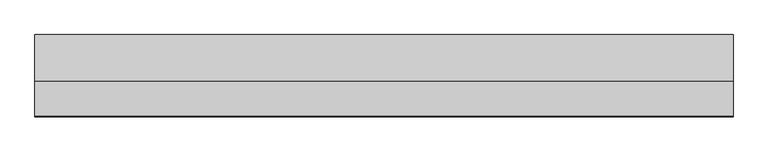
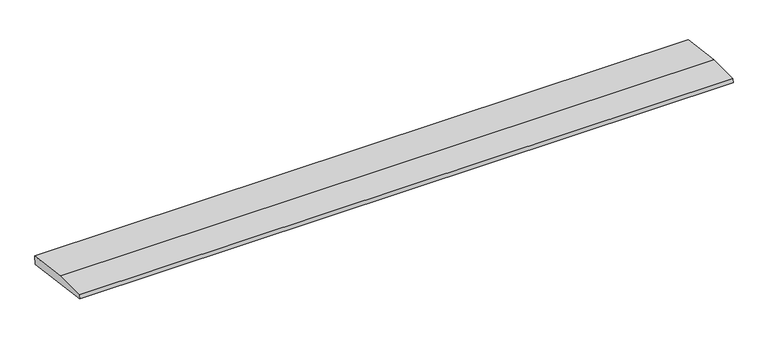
"""IFC4 building model written with IfcOpenShell, lengths in millimetres: beam geometry, weatherboad : weatherboad."""

from ifc_helpers import new_model, si_unit, frame, origin, place, context, project, spatial, polyline, outline, extrude, source, transform, mapped, element, save


def beam_1a6c5b2a(model_context):
    return source(origin(), model_context, "Body", "SweptSolid", [
        extrude(outline(polyline([(0.0, -9.143159), (1.1226388, 0.0), (79.0749747, 0.0), (180.9387048, -12.5072934), (178.6231873, -31.3656703), (0.0, -9.143159)])), frame((-765.2033483, 0.0, 0.0), z_axis=(1.0, 0.0, 0.0), x_axis=(0.0, 1.0, 0.0)), (0.0, 0.0, 1.0), 1530.4066966),
    ])


if __name__ == "__main__":
    model = new_model("IFC4")
    model_context = context("Model", 3, world=origin())
    ifc_project = project(units=[si_unit("LENGTHUNIT", "METRE", prefix="MILLI")], contexts=[model_context])
    site = spatial("IfcSite", under=ifc_project)
    building = spatial("IfcBuilding", under=site)
    placement = place(None, origin())
    beam_shape = beam_1a6c5b2a(model_context)
    element("IfcBeam", 1, ObjectType="weatherboad : weatherboad", at=placement, inside=building, context=model_context, shape_type="MappedRepresentation", body=[
        mapped(beam_shape, transform((0.0, 0.0, 0.0), x_axis=(1.0, 0.0, 0.0), y_axis=(0.0, 1.0, 0.0), z_axis=(0.0, 0.0, 1.0))),
    ])
    save(model, "model.ifc")
